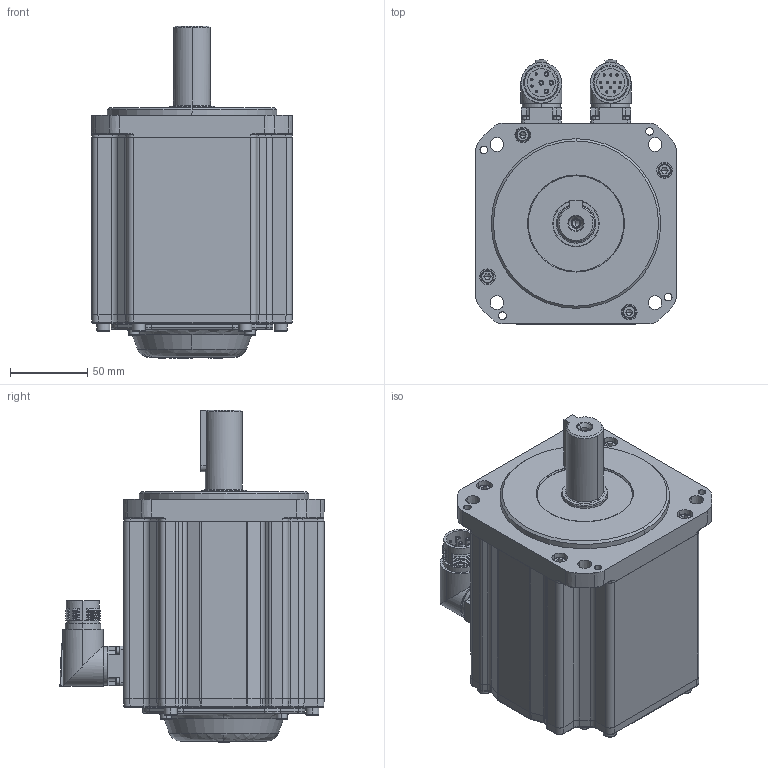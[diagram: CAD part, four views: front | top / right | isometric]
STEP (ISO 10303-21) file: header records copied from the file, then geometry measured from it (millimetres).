
FILE_DESCRIPTION (( 'STEP AP203' ), '1' );
FILE_NAME ('MC20-130-3M20-N152-0¡õPK-NNNN.STEP', '2025-05-04T14:08:12', ( '' ), ( '' ), 'SwSTEP 2.0', 'SolidWorks 2014', '' );
FILE_SCHEMA (( 'CONFIG_CONTROL_DESIGN' ));
Products named in the file (1): MC20-130-3M20-N152-0¡õPK-NNNN
Bounding box: 130 x 171.35 x 215.3 mm (x, y, z)
Volume: 2300757.8 mm3; surface area: 265565.5 mm2
Topology: 28 solids, 28 shells, 2024 faces, 4803 edges, 2863 vertices
Faces by surface type: plane 735, cylinder 568, cone 357, bspline 204, torus 148, sphere 12
Entity records: 62226 total; most frequent: CARTESIAN_POINT 16865, DIRECTION 9530, ORIENTED_EDGE 9382, EDGE_CURVE 4691, AXIS2_PLACEMENT_3D 3694, VERTEX_POINT 2863, EDGE_LOOP 2270, VECTOR 2142
